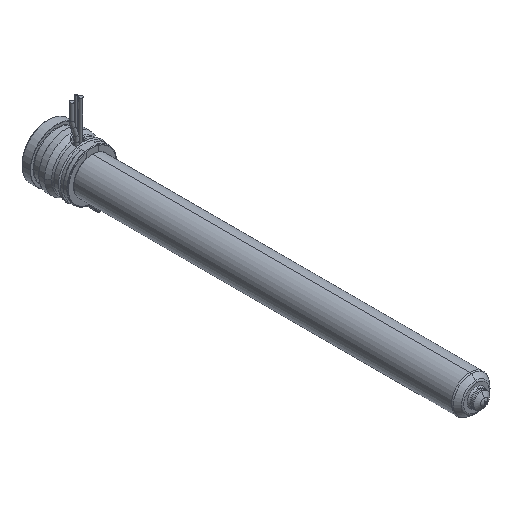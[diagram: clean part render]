
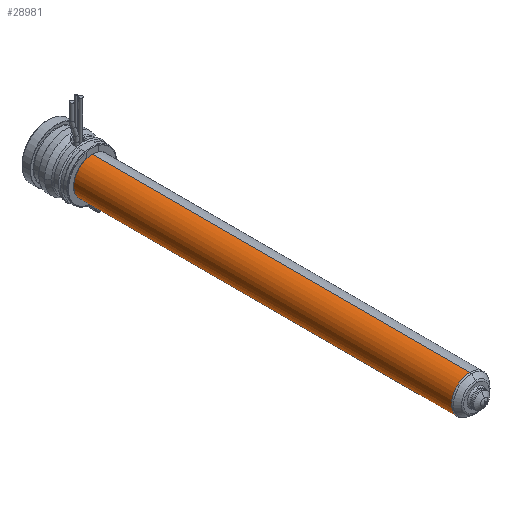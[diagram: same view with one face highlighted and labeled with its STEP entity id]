
A CAD part, isometric view. The second image highlights one B-rep face of the part: STEP entity #28981.
In plain terms, the highlighted cylindrical face has radius 9 mm (diameter 18 mm), a partial arc.
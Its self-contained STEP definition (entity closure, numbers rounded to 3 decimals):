
#28372=CARTESIAN_POINT('',(0.,-205.836,0.));
#28373=DIRECTION('',(0.,-1.,0.));
#28374=DIRECTION('',(0.,0.,1.));
#28375=AXIS2_PLACEMENT_3D('',#28372,#28373,#28374);
#28380=CARTESIAN_POINT('',(0.,-22.,0.));
#28381=DIRECTION('',(0.,-1.,0.));
#28382=DIRECTION('',(0.,0.,1.));
#28383=AXIS2_PLACEMENT_3D('',#28380,#28381,#28382);
#28388=DIRECTION('',(0.,-1.,0.));
#28389=VECTOR('',#28388,183.836);
#28390=CARTESIAN_POINT('',(0.,-22.,9.));
#28391=LINE('',#28390,#28389);
#28403=DIRECTION('',(0.,-1.,0.));
#28404=VECTOR('',#28403,183.836);
#28405=CARTESIAN_POINT('',(0.,-22.,-9.));
#28406=LINE('',#28405,#28404);
#28598=CARTESIAN_POINT('',(0.,-22.,9.));
#28599=CARTESIAN_POINT('',(0.,-205.836,9.));
#28600=VERTEX_POINT('',#28598);
#28601=VERTEX_POINT('',#28599);
#28624=CARTESIAN_POINT('',(0.,-22.,-9.));
#28625=CARTESIAN_POINT('',(0.,-205.836,-9.));
#28626=VERTEX_POINT('',#28624);
#28627=VERTEX_POINT('',#28625);
#28967=CARTESIAN_POINT('',(0.,-8.2,0.));
#28968=DIRECTION('',(0.,-1.,0.));
#28969=DIRECTION('',(0.,0.,1.));
#28970=AXIS2_PLACEMENT_3D('',#28967,#28968,#28969);
#28971=CYLINDRICAL_SURFACE('',#28970,9.);
#28973=ORIENTED_EDGE('',*,*,#28972,.T.);
#28974=ORIENTED_EDGE('',*,*,#28962,.T.);
#28976=ORIENTED_EDGE('',*,*,#28975,.F.);
#28978=ORIENTED_EDGE('',*,*,#28977,.F.);
#28979=EDGE_LOOP('',(#28973,#28974,#28976,#28978));
#28980=FACE_OUTER_BOUND('',#28979,.F.);
#28981=ADVANCED_FACE('',(#28980),#28971,.T.);
#28376=CIRCLE('',#28375,9.);
#28384=CIRCLE('',#28383,9.);
#28962=EDGE_CURVE('',#28601,#28627,#28376,.T.);
#28972=EDGE_CURVE('',#28600,#28601,#28391,.T.);
#28975=EDGE_CURVE('',#28626,#28627,#28406,.T.);
#28977=EDGE_CURVE('',#28600,#28626,#28384,.T.);
